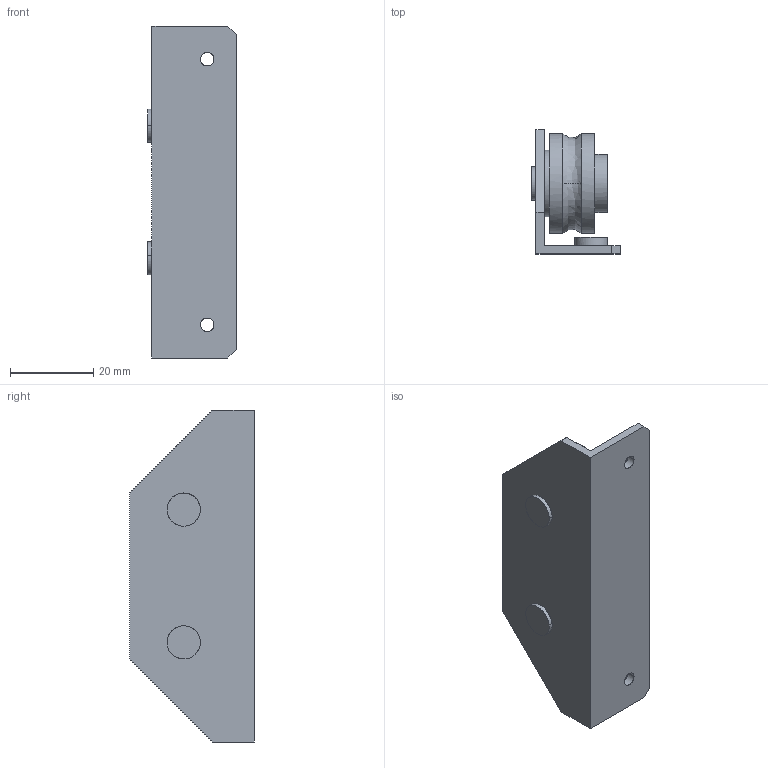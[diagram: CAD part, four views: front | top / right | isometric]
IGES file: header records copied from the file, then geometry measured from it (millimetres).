
Global section: file name: No Iges File Name specified; native system: AutoDesk Inventor R11.0; preprocessor: AutoDesk Inventor Iges Exporter R11.0; author: No Author specified; organization: No Organization specified; date: 20190426.192538; units: millimetre
Bounding box: 21.3 x 30 x 80 mm (x, y, z)
Surface area: 11640.2 mm2 (no closed solid volume)
Topology: 0 solids, 0 shells, 66 faces, 470 edges, 470 vertices
Faces by surface type: bspline 66
